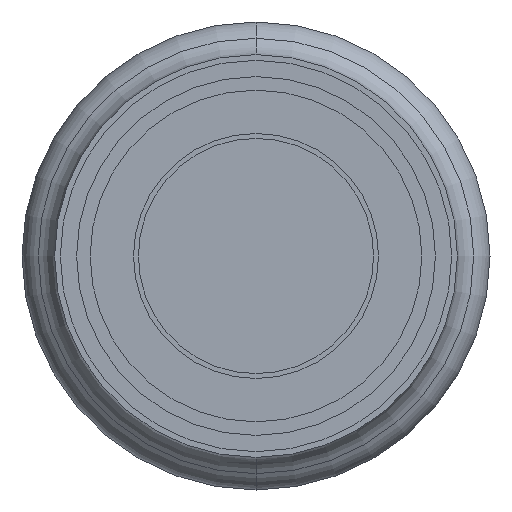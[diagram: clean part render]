
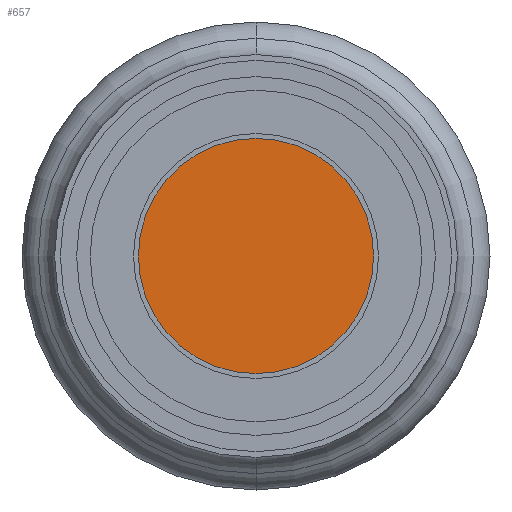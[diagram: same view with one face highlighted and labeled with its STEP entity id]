
A CAD part, front view. The second image highlights one B-rep face of the part: STEP entity #657.
In plain terms, the highlighted planar face has unit normal (0, -1, 0).
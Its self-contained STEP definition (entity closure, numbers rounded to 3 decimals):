
#25 = DIRECTION ( 'NONE',  ( 0., -1., 0. ) ) ;
#72 = AXIS2_PLACEMENT_3D ( 'NONE', #1391, #25, #447 ) ;
#260 = CARTESIAN_POINT ( 'NONE',  ( -90.831, -169.251, 403. ) ) ;
#290 = VERTEX_POINT ( 'NONE', #948 ) ;
#348 = ORIENTED_EDGE ( 'NONE', *, *, #369, .T. ) ;
#369 = EDGE_CURVE ( 'NONE', #1076, #290, #645, .T. ) ;
#447 = DIRECTION ( 'NONE',  ( 0., 0., -1. ) ) ;
#473 = DIRECTION ( 'NONE',  ( 0., -1., 0. ) ) ;
#484 = CARTESIAN_POINT ( 'NONE',  ( -90.831, -169.251, 403. ) ) ;
#645 = CIRCLE ( 'NONE', #970, 54.102 ) ;
#657 = ADVANCED_FACE ( 'NONE', ( #1350 ), #2059, .T. ) ;
#735 = CARTESIAN_POINT ( 'NONE',  ( -90.831, -169.251, 348.898 ) ) ;
#845 = AXIS2_PLACEMENT_3D ( 'NONE', #260, #1258, #1075 ) ;
#948 = CARTESIAN_POINT ( 'NONE',  ( -90.831, -169.251, 457.102 ) ) ;
#970 = AXIS2_PLACEMENT_3D ( 'NONE', #484, #473, #1660 ) ;
#1075 = DIRECTION ( 'NONE',  ( 0., 0., -1. ) ) ;
#1076 = VERTEX_POINT ( 'NONE', #735 ) ;
#1100 = CIRCLE ( 'NONE', #845, 54.102 ) ;
#1137 = EDGE_CURVE ( 'NONE', #290, #1076, #1100, .T. ) ;
#1258 = DIRECTION ( 'NONE',  ( 0., -1., 0. ) ) ;
#1350 = FACE_OUTER_BOUND ( 'NONE', #1893, .T. ) ;
#1391 = CARTESIAN_POINT ( 'NONE',  ( -90.831, -169.251, 403. ) ) ;
#1482 = ORIENTED_EDGE ( 'NONE', *, *, #1137, .T. ) ;
#1660 = DIRECTION ( 'NONE',  ( 0., 0., -1. ) ) ;
#1893 = EDGE_LOOP ( 'NONE', ( #348, #1482 ) ) ;
#2059 = PLANE ( 'NONE',  #72 ) ;
